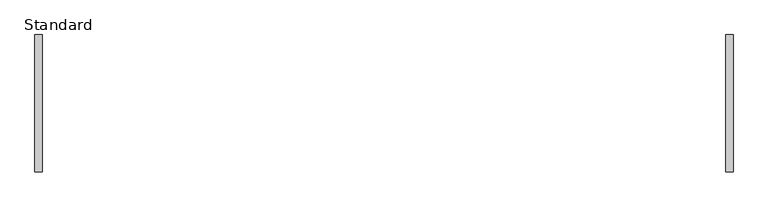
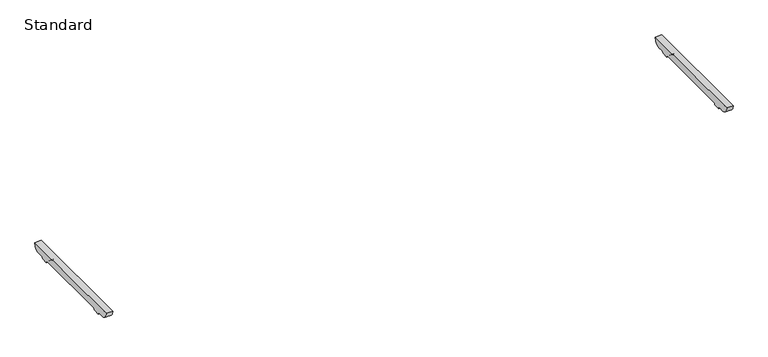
"""IFC4 building model written with IfcOpenShell, lengths in millimetres: furniture geometry, BDG_BossDesign_Tbls_AgentTables4Legs_Nested : Standard."""

from ifc_helpers import new_model, si_unit, point, frame, frame_2d, origin, place, context, project, spatial, polyline, circle_curve, trimmed, segment, composite_curve, outline, extrude, source, transform, mapped, element, save


def standard_fd26c19c(model_context):
    return source(origin(), model_context, "Body", "SweptSolid", [
        extrude(outline(composite_curve([segment(polyline([(380.5450184, 672.0), (342.7000122, 672.0)]), True, "CONTINUOUS"), segment(trimmed(circle_curve(frame_2d((342.7000122, 660.0)), 12.0), [point((342.7000122, 672.0))], [point((330.7000122, 660.0))], True, "CARTESIAN"), True, "CONTINUOUS"), segment(polyline([(330.7000122, 660.0), (285.7000122, 660.0)]), True, "CONTINUOUS"), segment(trimmed(circle_curve(frame_2d((273.7000122, 660.0)), 12.0), [point((285.7000122, 660.0))], [point((273.7000122, 672.0))], True, "CARTESIAN"), True, "CONTINUOUS"), segment(polyline([(273.7000122, 672.0), (-273.7000122, 672.0)]), True, "CONTINUOUS"), segment(trimmed(circle_curve(frame_2d((-273.7000122, 660.0)), 12.0), [point((-273.7000122, 672.0))], [point((-285.7000122, 660.0))], True, "CARTESIAN"), True, "CONTINUOUS"), segment(polyline([(-285.7000122, 660.0), (-330.7000122, 660.0)]), True, "CONTINUOUS"), segment(trimmed(circle_curve(frame_2d((-342.7000122, 660.0)), 12.0), [point((-330.7000122, 660.0))], [point((-342.7000122, 672.0))], True, "CARTESIAN"), True, "CONTINUOUS"), segment(polyline([(-342.7000122, 672.0), (-380.5450184, 672.0)]), True, "CONTINUOUS"), segment(trimmed(circle_curve(frame_2d((-378.2220439, 716.5514119)), 44.6119324), [point((-380.5450184, 672.0))], [point((-422.5, 722.0))], False, "CARTESIAN"), True, "CONTINUOUS"), segment(polyline([(-422.5, 722.0), (422.5, 722.0)]), True, "CONTINUOUS"), segment(trimmed(circle_curve(frame_2d((378.2220439, 716.5514119)), 44.6119324), [point((422.5, 722.0))], [point((380.5450184, 672.0))], False, "CARTESIAN"), True, "CONTINUOUS")], self_intersect=False)), frame((2105.0, 0.0, 0.0), z_axis=(1.0, 0.0, 0.0), x_axis=(0.0, 1.0, 0.0)), (0.0, 0.0, 1.0), 45.0),
        extrude(outline(composite_curve([segment(polyline([(380.5450184, 672.0), (342.7000122, 672.0)]), True, "CONTINUOUS"), segment(trimmed(circle_curve(frame_2d((342.7000122, 660.0)), 12.0), [point((342.7000122, 672.0))], [point((330.7000122, 660.0))], True, "CARTESIAN"), True, "CONTINUOUS"), segment(polyline([(330.7000122, 660.0), (285.7000122, 660.0)]), True, "CONTINUOUS"), segment(trimmed(circle_curve(frame_2d((273.7000122, 660.0)), 12.0), [point((285.7000122, 660.0))], [point((273.7000122, 672.0))], True, "CARTESIAN"), True, "CONTINUOUS"), segment(polyline([(273.7000122, 672.0), (-273.7000122, 672.0)]), True, "CONTINUOUS"), segment(trimmed(circle_curve(frame_2d((-273.7000122, 660.0)), 12.0), [point((-273.7000122, 672.0))], [point((-285.7000122, 660.0))], True, "CARTESIAN"), True, "CONTINUOUS"), segment(polyline([(-285.7000122, 660.0), (-330.7000122, 660.0)]), True, "CONTINUOUS"), segment(trimmed(circle_curve(frame_2d((-342.7000122, 660.0)), 12.0), [point((-330.7000122, 660.0))], [point((-342.7000122, 672.0))], True, "CARTESIAN"), True, "CONTINUOUS"), segment(polyline([(-342.7000122, 672.0), (-380.5450184, 672.0)]), True, "CONTINUOUS"), segment(trimmed(circle_curve(frame_2d((-378.2220439, 716.5514119)), 44.6119324), [point((-380.5450184, 672.0))], [point((-422.5, 722.0))], False, "CARTESIAN"), True, "CONTINUOUS"), segment(polyline([(-422.5, 722.0), (422.5, 722.0)]), True, "CONTINUOUS"), segment(trimmed(circle_curve(frame_2d((378.2220439, 716.5514119)), 44.6119324), [point((422.5, 722.0))], [point((380.5450184, 672.0))], False, "CARTESIAN"), True, "CONTINUOUS")], self_intersect=False)), frame((-2150.0, 0.0, 0.0), z_axis=(1.0, 0.0, 0.0), x_axis=(0.0, 1.0, 0.0)), (0.0, 0.0, 1.0), 45.0),
    ])


if __name__ == "__main__":
    model = new_model("IFC4")
    model_context = context("Model", 3, world=origin())
    ifc_project = project(units=[si_unit("LENGTHUNIT", "METRE", prefix="MILLI")], contexts=[model_context])
    site = spatial("IfcSite", under=ifc_project)
    building = spatial("IfcBuilding", under=site)
    placement = place(None, origin())
    standard_shape = standard_fd26c19c(model_context)
    element("IfcFurniture", 1, ObjectType="BDG_BossDesign_Tbls_AgentTables4Legs_Nested : Standard", at=placement, inside=building, context=model_context, shape_type="MappedRepresentation", body=[
        mapped(standard_shape, transform((0.0, 0.0, 0.0), x_axis=(1.0, 0.0, 0.0), y_axis=(0.0, 1.0, 0.0), z_axis=(0.0, 0.0, 1.0))),
    ])
    save(model, "model.ifc")
